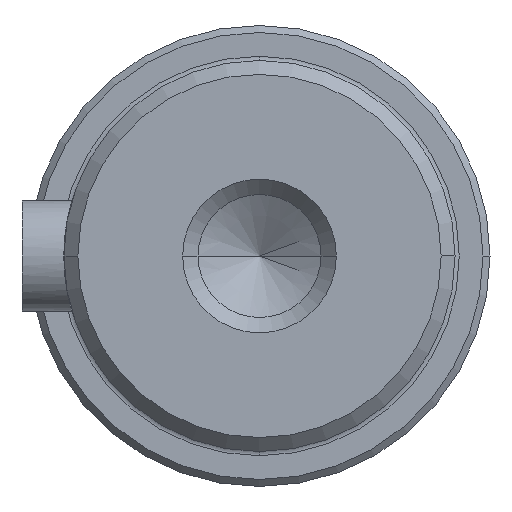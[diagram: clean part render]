
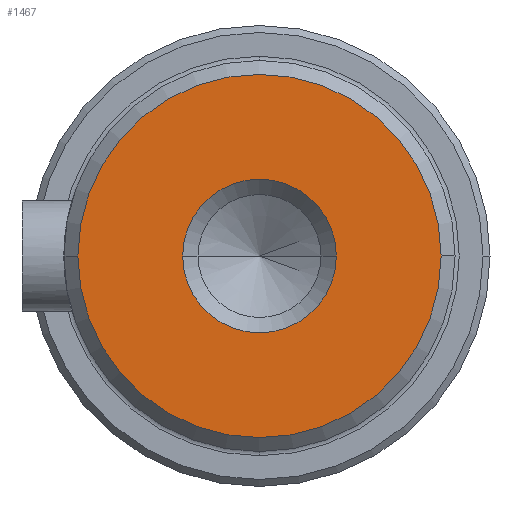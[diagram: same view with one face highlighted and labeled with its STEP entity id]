
A CAD part, left-side view. The second image highlights one B-rep face of the part: STEP entity #1467.
In plain terms, the highlighted planar face has unit normal (-1, 0, 0).
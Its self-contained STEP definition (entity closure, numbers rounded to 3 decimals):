
#538=CARTESIAN_POINT('',(0.,0.,0.));
#539=DIRECTION('',(1.,0.,0.));
#540=DIRECTION('',(0.,1.,0.));
#541=AXIS2_PLACEMENT_3D('',#538,#539,#540);
#543=CARTESIAN_POINT('',(0.,0.,0.));
#544=DIRECTION('',(1.,0.,0.));
#545=DIRECTION('',(0.,-1.,0.));
#546=AXIS2_PLACEMENT_3D('',#543,#544,#545);
#548=CARTESIAN_POINT('',(0.,0.,0.));
#549=DIRECTION('',(1.,0.,0.));
#550=DIRECTION('',(0.,0.,-1.));
#551=AXIS2_PLACEMENT_3D('',#548,#549,#550);
#553=CARTESIAN_POINT('',(0.,0.,0.));
#554=DIRECTION('',(-1.,0.,0.));
#555=DIRECTION('',(0.,1.,0.));
#556=AXIS2_PLACEMENT_3D('',#553,#554,#555);
#558=CARTESIAN_POINT('',(0.,0.,0.));
#559=DIRECTION('',(-1.,0.,0.));
#560=DIRECTION('',(0.,-1.,0.));
#561=AXIS2_PLACEMENT_3D('',#558,#559,#560);
#676=CARTESIAN_POINT('',(0.,13.,0.));
#678=VERTEX_POINT('',#676);
#680=CARTESIAN_POINT('',(0.,-13.,0.));
#681=VERTEX_POINT('',#680);
#682=CARTESIAN_POINT('',(0.,0.,-13.));
#683=VERTEX_POINT('',#682);
#684=CARTESIAN_POINT('',(0.,5.5,0.));
#685=CARTESIAN_POINT('',(0.,-5.5,0.));
#686=VERTEX_POINT('',#684);
#687=VERTEX_POINT('',#685);
#1450=CARTESIAN_POINT('',(0.,0.,0.01));
#1451=DIRECTION('',(1.,0.,0.));
#1452=DIRECTION('',(0.,-1.,0.));
#1453=AXIS2_PLACEMENT_3D('',#1450,#1451,#1452);
#1454=PLANE('',#1453);
#1456=ORIENTED_EDGE('',*,*,#1455,.T.);
#1457=ORIENTED_EDGE('',*,*,#1440,.T.);
#1458=ORIENTED_EDGE('',*,*,#1438,.T.);
#1459=EDGE_LOOP('',(#1456,#1457,#1458));
#1460=FACE_OUTER_BOUND('',#1459,.F.);
#1462=ORIENTED_EDGE('',*,*,#1461,.T.);
#1464=ORIENTED_EDGE('',*,*,#1463,.T.);
#1465=EDGE_LOOP('',(#1462,#1464));
#1466=FACE_BOUND('',#1465,.F.);
#1467=ADVANCED_FACE('',(#1460,#1466),#1454,.F.);
#542=CIRCLE('',#541,13.);
#547=CIRCLE('',#546,13.);
#552=CIRCLE('',#551,13.);
#557=CIRCLE('',#556,5.5);
#562=CIRCLE('',#561,5.5);
#1438=EDGE_CURVE('',#683,#678,#552,.T.);
#1440=EDGE_CURVE('',#681,#683,#547,.T.);
#1455=EDGE_CURVE('',#678,#681,#542,.T.);
#1461=EDGE_CURVE('',#686,#687,#557,.T.);
#1463=EDGE_CURVE('',#687,#686,#562,.T.);
